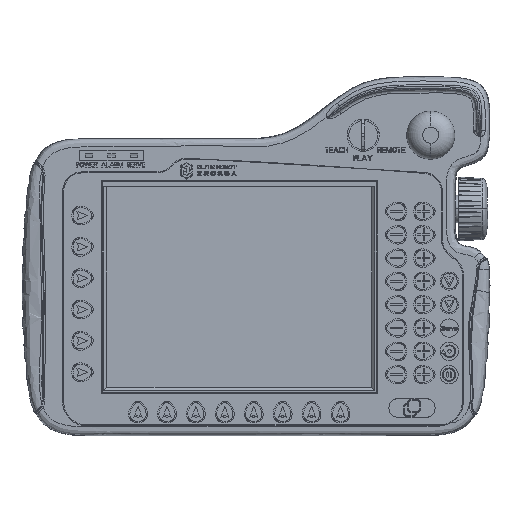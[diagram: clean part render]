
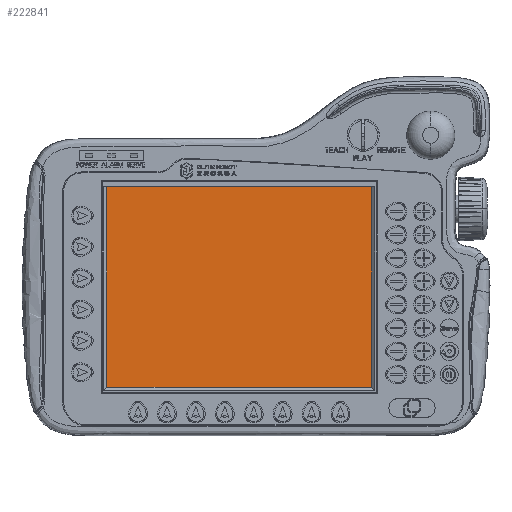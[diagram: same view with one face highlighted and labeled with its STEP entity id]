
A CAD part, top view. The second image highlights one B-rep face of the part: STEP entity #222841.
In plain terms, the highlighted planar face has unit normal (0, 0, 1) as drawn and (0, 0, -1) by its records, which use the part's own axes.
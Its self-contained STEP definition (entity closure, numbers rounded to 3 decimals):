
#52299 = LINE ( 'NONE', #381631, #137753 ) ;
#56382 = CARTESIAN_POINT ( 'NONE',  ( 173.9, 132.95, 0.01 ) ) ;
#65263 = ORIENTED_EDGE ( 'NONE', *, *, #163870, .T. ) ;
#70645 = CARTESIAN_POINT ( 'NONE',  ( 9.1, 8.15, 0.01 ) ) ;
#78543 = DIRECTION ( 'NONE',  ( 0., -1., 0. ) ) ;
#88230 = EDGE_CURVE ( 'NONE', #452591, #239148, #232826, .T. ) ;
#100282 = DIRECTION ( 'NONE',  ( 1., 0., 0. ) ) ;
#137753 = VECTOR ( 'NONE', #335634, 1000. ) ;
#142312 = ORIENTED_EDGE ( 'NONE', *, *, #248307, .T. ) ;
#163870 = EDGE_CURVE ( 'NONE', #239148, #401745, #291894, .T. ) ;
#175349 = EDGE_LOOP ( 'NONE', ( #240279, #475645, #65263, #142312 ) ) ;
#222841 = ADVANCED_FACE ( 'NONE', ( #264657 ), #443996, .F. ) ;
#232590 = CARTESIAN_POINT ( 'NONE',  ( 9.1, 132.95, 0.01 ) ) ;
#232826 = LINE ( 'NONE', #330433, #489802 ) ;
#239148 = VERTEX_POINT ( 'NONE', #274062 ) ;
#240279 = ORIENTED_EDGE ( 'NONE', *, *, #501237, .T. ) ;
#241549 = DIRECTION ( 'NONE',  ( 1., 0., 0. ) ) ;
#246727 = CARTESIAN_POINT ( 'NONE',  ( 9.1, 132.95, 0.01 ) ) ;
#248307 = EDGE_CURVE ( 'NONE', #401745, #410447, #52299, .T. ) ;
#264657 = FACE_OUTER_BOUND ( 'NONE', #175349, .T. ) ;
#274062 = CARTESIAN_POINT ( 'NONE',  ( 173.9, 8.15, 0.01 ) ) ;
#276653 = DIRECTION ( 'NONE',  ( 0., 0., 1. ) ) ;
#282244 = DIRECTION ( 'NONE',  ( -1., 0., 0. ) ) ;
#291894 = LINE ( 'NONE', #537827, #449635 ) ;
#313027 = LINE ( 'NONE', #232590, #345795 ) ;
#330433 = CARTESIAN_POINT ( 'NONE',  ( 173.9, 132.95, 0.01 ) ) ;
#335634 = DIRECTION ( 'NONE',  ( 0., 1., 0. ) ) ;
#345795 = VECTOR ( 'NONE', #100282, 1000. ) ;
#381631 = CARTESIAN_POINT ( 'NONE',  ( 9.1, 8.15, 0.01 ) ) ;
#401745 = VERTEX_POINT ( 'NONE', #486812 ) ;
#410447 = VERTEX_POINT ( 'NONE', #246727 ) ;
#443996 = PLANE ( 'NONE',  #466783 ) ;
#449635 = VECTOR ( 'NONE', #282244, 1000. ) ;
#452591 = VERTEX_POINT ( 'NONE', #56382 ) ;
#466783 = AXIS2_PLACEMENT_3D ( 'NONE', #70645, #276653, #241549 ) ;
#475645 = ORIENTED_EDGE ( 'NONE', *, *, #88230, .T. ) ;
#486812 = CARTESIAN_POINT ( 'NONE',  ( 9.1, 8.15, 0.01 ) ) ;
#489802 = VECTOR ( 'NONE', #78543, 1000. ) ;
#501237 = EDGE_CURVE ( 'NONE', #410447, #452591, #313027, .T. ) ;
#537827 = CARTESIAN_POINT ( 'NONE',  ( 173.9, 8.15, 0.01 ) ) ;
